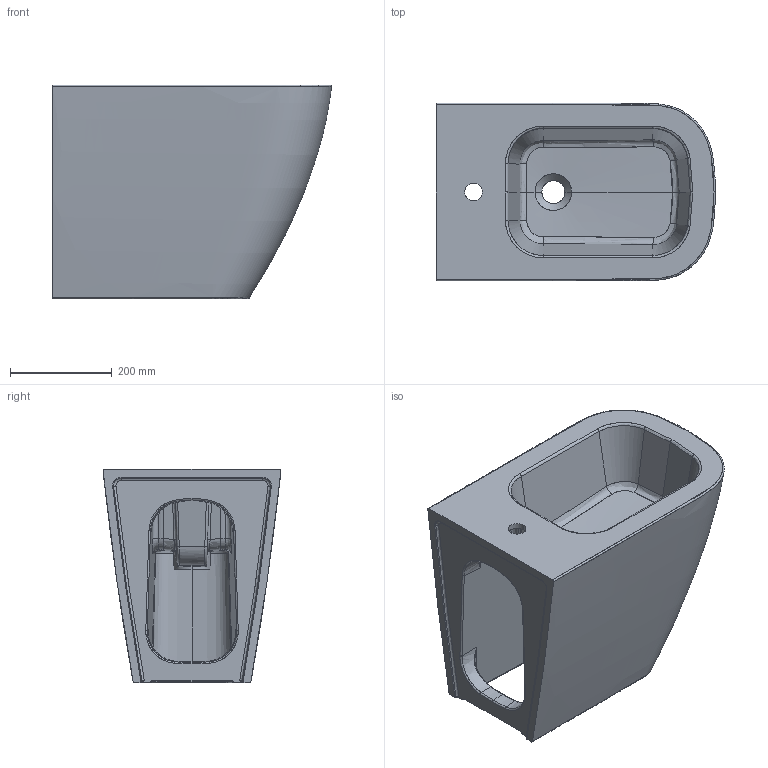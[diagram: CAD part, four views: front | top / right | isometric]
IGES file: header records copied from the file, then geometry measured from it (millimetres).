
Start section: START RECORD GO HERE.
Global section: file name: 3D ART 5480 BIDET MEG.igs; native system: DASSAULT SYSTEMES CATIA V5 R19 - www.3ds.com; preprocessor: CATIA Version 5 Release 19 SP 5 ; author: Luca; organization: DESKTOP-V7SON24; date: 20181204.105742; units: millimetre
Bounding box: 549.08 x 350.16 x 420 mm (x, y, z)
Surface area: 1254567.4 mm2 (no closed solid volume)
Topology: 0 solids, 0 shells, 249 faces, 1171 edges, 1154 vertices
Faces by surface type: bspline 155, revolution 75, plane 15, extrusion 4
